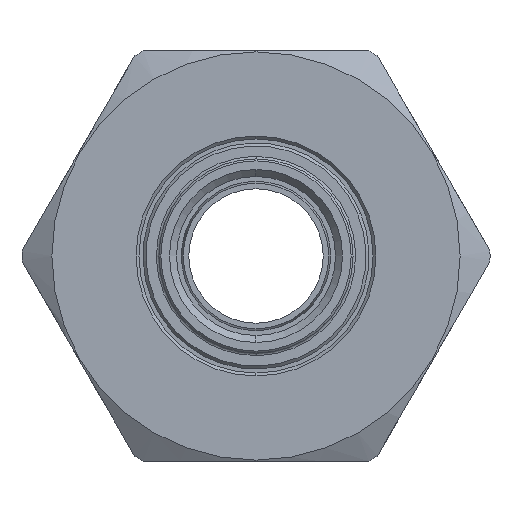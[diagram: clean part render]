
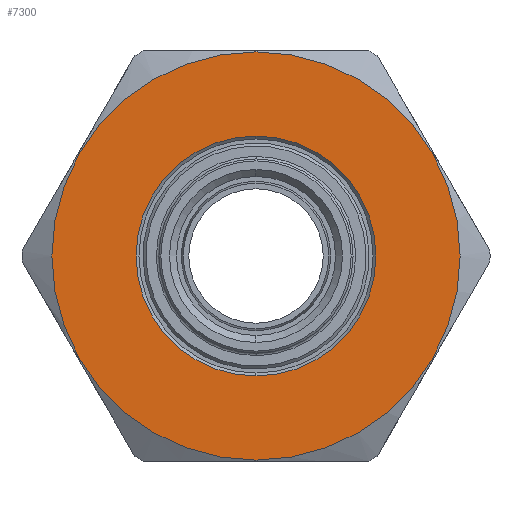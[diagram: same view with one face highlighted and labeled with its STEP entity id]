
A CAD part, left-side view. The second image highlights one B-rep face of the part: STEP entity #7300.
In plain terms, the highlighted planar face has unit normal (-1, 0, 0).
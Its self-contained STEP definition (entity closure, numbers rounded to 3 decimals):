
#2037 = VERTEX_POINT('',#2038);
#2038 = CARTESIAN_POINT('',(-34.943,12.679,
    10.868));
#2045 = CONICAL_SURFACE('',#2046,12.05,0.785);
#2046 = AXIS2_PLACEMENT_3D('',#2047,#2048,#2049);
#2047 = CARTESIAN_POINT('',(-34.943,12.679,
    -1.182));
#2048 = DIRECTION('',(-1.,0.,0.));
#2049 = DIRECTION('',(0.,0.,1.));
#2057 = CONICAL_SURFACE('',#2058,12.05,0.785);
#2058 = AXIS2_PLACEMENT_3D('',#2059,#2060,#2061);
#2059 = CARTESIAN_POINT('',(-34.943,12.679,
    -1.182));
#2060 = DIRECTION('',(-1.,0.,0.));
#2061 = DIRECTION('',(0.,0.,1.));
#2069 = EDGE_CURVE('',#2037,#2070,#2072,.T.);
#2070 = VERTEX_POINT('',#2071);
#2071 = CARTESIAN_POINT('',(-34.943,12.679,
    -13.232));
#2072 = SURFACE_CURVE('',#2073,(#2078,#2085),.PCURVE_S1.);
#2073 = CIRCLE('',#2074,12.05);
#2074 = AXIS2_PLACEMENT_3D('',#2075,#2076,#2077);
#2075 = CARTESIAN_POINT('',(-34.943,12.679,
    -1.182));
#2076 = DIRECTION('',(1.,0.,0.));
#2077 = DIRECTION('',(0.,0.,-1.));
#2078 = PCURVE('',#2045,#2079);
#2079 = DEFINITIONAL_REPRESENTATION('',(#2080),#2084);
#2080 = LINE('',#2081,#2082);
#2081 = CARTESIAN_POINT('',(9.425,0.));
#2082 = VECTOR('',#2083,1.);
#2083 = DIRECTION('',(-1.,0.));
#2084 = ( GEOMETRIC_REPRESENTATION_CONTEXT(2) 
PARAMETRIC_REPRESENTATION_CONTEXT() REPRESENTATION_CONTEXT('2D SPACE',''
  ) );
#2085 = PCURVE('',#2086,#2091);
#2086 = PLANE('',#2087);
#2087 = AXIS2_PLACEMENT_3D('',#2088,#2089,#2090);
#2088 = CARTESIAN_POINT('',(-34.943,24.429,
    -1.182));
#2089 = DIRECTION('',(1.,0.,0.));
#2090 = DIRECTION('',(0.,0.,-1.));
#2091 = DEFINITIONAL_REPRESENTATION('',(#2092),#2096);
#2092 = CIRCLE('',#2093,12.05);
#2093 = AXIS2_PLACEMENT_2D('',#2094,#2095);
#2094 = CARTESIAN_POINT('',(0.,-11.75));
#2095 = DIRECTION('',(1.,0.));
#2096 = ( GEOMETRIC_REPRESENTATION_CONTEXT(2) 
PARAMETRIC_REPRESENTATION_CONTEXT() REPRESENTATION_CONTEXT('2D SPACE',''
  ) );
#2594 = EDGE_CURVE('',#2595,#2597,#2599,.T.);
#2595 = VERTEX_POINT('',#2596);
#2596 = CARTESIAN_POINT('',(-34.943,12.679,
    -21.682));
#2597 = VERTEX_POINT('',#2598);
#2598 = CARTESIAN_POINT('',(-34.943,12.679,
    19.318));
#2599 = SURFACE_CURVE('',#2600,(#2605,#2617),.PCURVE_S1.);
#2600 = CIRCLE('',#2601,20.5);
#2601 = AXIS2_PLACEMENT_3D('',#2602,#2603,#2604);
#2602 = CARTESIAN_POINT('',(-34.943,12.679,
    -1.182));
#2603 = DIRECTION('',(1.,0.,0.));
#2604 = DIRECTION('',(0.,0.,-1.));
#2605 = PCURVE('',#2606,#2611);
#2606 = CONICAL_SURFACE('',#2607,25.813,1.047);
#2607 = AXIS2_PLACEMENT_3D('',#2608,#2609,#2610);
#2608 = CARTESIAN_POINT('',(-31.876,12.679,
    -1.182));
#2609 = DIRECTION('',(1.,0.,0.));
#2610 = DIRECTION('',(0.,0.,-1.));
#2611 = DEFINITIONAL_REPRESENTATION('',(#2612),#2616);
#2612 = LINE('',#2613,#2614);
#2613 = CARTESIAN_POINT('',(0.,-3.067));
#2614 = VECTOR('',#2615,1.);
#2615 = DIRECTION('',(1.,0.));
#2616 = ( GEOMETRIC_REPRESENTATION_CONTEXT(2) 
PARAMETRIC_REPRESENTATION_CONTEXT() REPRESENTATION_CONTEXT('2D SPACE',''
  ) );
#2617 = PCURVE('',#2086,#2618);
#2618 = DEFINITIONAL_REPRESENTATION('',(#2619),#2623);
#2619 = CIRCLE('',#2620,20.5);
#2620 = AXIS2_PLACEMENT_2D('',#2621,#2622);
#2621 = CARTESIAN_POINT('',(0.,-11.75));
#2622 = DIRECTION('',(1.,0.));
#2623 = ( GEOMETRIC_REPRESENTATION_CONTEXT(2) 
PARAMETRIC_REPRESENTATION_CONTEXT() REPRESENTATION_CONTEXT('2D SPACE',''
  ) );
#2641 = CONICAL_SURFACE('',#2642,25.813,1.047);
#2642 = AXIS2_PLACEMENT_3D('',#2643,#2644,#2645);
#2643 = CARTESIAN_POINT('',(-31.876,12.679,
    -1.182));
#2644 = DIRECTION('',(1.,0.,0.));
#2645 = DIRECTION('',(0.,0.,-1.));
#7300 = ADVANCED_FACE('',(#7301,#7326),#2086,.F.);
#7301 = FACE_BOUND('',#7302,.T.);
#7302 = EDGE_LOOP('',(#7303,#7304));
#7303 = ORIENTED_EDGE('',*,*,#2069,.T.);
#7304 = ORIENTED_EDGE('',*,*,#7305,.T.);
#7305 = EDGE_CURVE('',#2070,#2037,#7306,.T.);
#7306 = SURFACE_CURVE('',#7307,(#7312,#7319),.PCURVE_S1.);
#7307 = CIRCLE('',#7308,12.05);
#7308 = AXIS2_PLACEMENT_3D('',#7309,#7310,#7311);
#7309 = CARTESIAN_POINT('',(-34.943,12.679,
    -1.182));
#7310 = DIRECTION('',(1.,0.,0.));
#7311 = DIRECTION('',(0.,0.,-1.));
#7312 = PCURVE('',#2086,#7313);
#7313 = DEFINITIONAL_REPRESENTATION('',(#7314),#7318);
#7314 = CIRCLE('',#7315,12.05);
#7315 = AXIS2_PLACEMENT_2D('',#7316,#7317);
#7316 = CARTESIAN_POINT('',(0.,-11.75));
#7317 = DIRECTION('',(1.,0.));
#7318 = ( GEOMETRIC_REPRESENTATION_CONTEXT(2) 
PARAMETRIC_REPRESENTATION_CONTEXT() REPRESENTATION_CONTEXT('2D SPACE',''
  ) );
#7319 = PCURVE('',#2057,#7320);
#7320 = DEFINITIONAL_REPRESENTATION('',(#7321),#7325);
#7321 = LINE('',#7322,#7323);
#7322 = CARTESIAN_POINT('',(3.142,0.));
#7323 = VECTOR('',#7324,1.);
#7324 = DIRECTION('',(-1.,0.));
#7325 = ( GEOMETRIC_REPRESENTATION_CONTEXT(2) 
PARAMETRIC_REPRESENTATION_CONTEXT() REPRESENTATION_CONTEXT('2D SPACE',''
  ) );
#7326 = FACE_BOUND('',#7327,.T.);
#7327 = EDGE_LOOP('',(#7328,#7329));
#7328 = ORIENTED_EDGE('',*,*,#2594,.F.);
#7329 = ORIENTED_EDGE('',*,*,#7330,.F.);
#7330 = EDGE_CURVE('',#2597,#2595,#7331,.T.);
#7331 = SURFACE_CURVE('',#7332,(#7337,#7344),.PCURVE_S1.);
#7332 = CIRCLE('',#7333,20.5);
#7333 = AXIS2_PLACEMENT_3D('',#7334,#7335,#7336);
#7334 = CARTESIAN_POINT('',(-34.943,12.679,
    -1.182));
#7335 = DIRECTION('',(1.,0.,0.));
#7336 = DIRECTION('',(0.,0.,-1.));
#7337 = PCURVE('',#2086,#7338);
#7338 = DEFINITIONAL_REPRESENTATION('',(#7339),#7343);
#7339 = CIRCLE('',#7340,20.5);
#7340 = AXIS2_PLACEMENT_2D('',#7341,#7342);
#7341 = CARTESIAN_POINT('',(0.,-11.75));
#7342 = DIRECTION('',(1.,0.));
#7343 = ( GEOMETRIC_REPRESENTATION_CONTEXT(2) 
PARAMETRIC_REPRESENTATION_CONTEXT() REPRESENTATION_CONTEXT('2D SPACE',''
  ) );
#7344 = PCURVE('',#2641,#7345);
#7345 = DEFINITIONAL_REPRESENTATION('',(#7346),#7350);
#7346 = LINE('',#7347,#7348);
#7347 = CARTESIAN_POINT('',(0.,-3.067));
#7348 = VECTOR('',#7349,1.);
#7349 = DIRECTION('',(1.,0.));
#7350 = ( GEOMETRIC_REPRESENTATION_CONTEXT(2) 
PARAMETRIC_REPRESENTATION_CONTEXT() REPRESENTATION_CONTEXT('2D SPACE',''
  ) );
